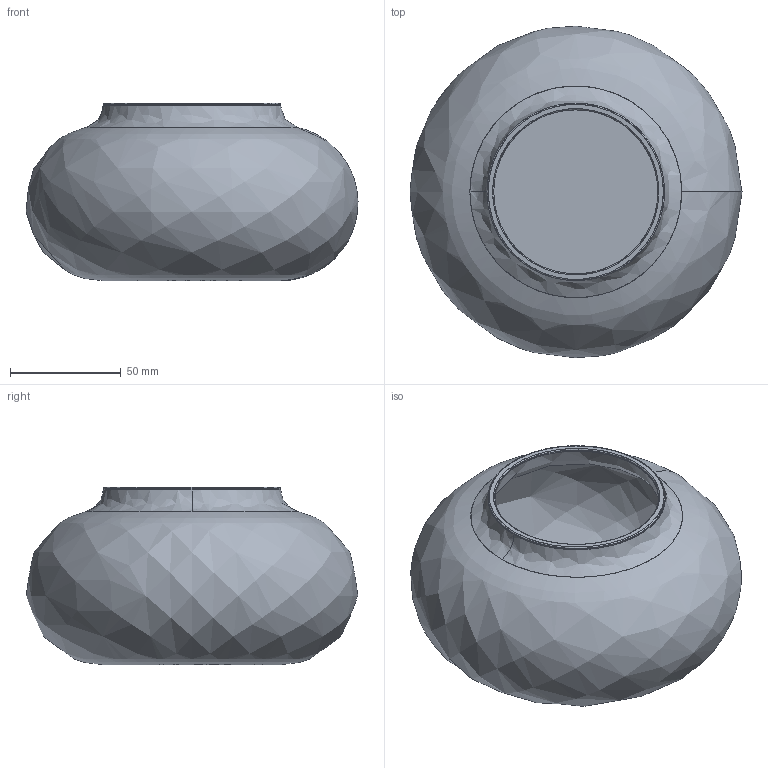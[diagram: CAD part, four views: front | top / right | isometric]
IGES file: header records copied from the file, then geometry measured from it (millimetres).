
Start section: C
Global section: file name: CARA.igs; native system:  By UGS Corp.; preprocessor: XPlus GENERIC/IGES 3.0; author: Author; organization: Title; date: 20201105.185215; units: millimetre
Bounding box: 149.77 x 149.56 x 80 mm (x, y, z)
Surface area: 96338.9 mm2 (no closed solid volume)
Topology: 0 solids, 0 shells, 11 faces, 56 edges, 56 vertices
Faces by surface type: bspline 11
